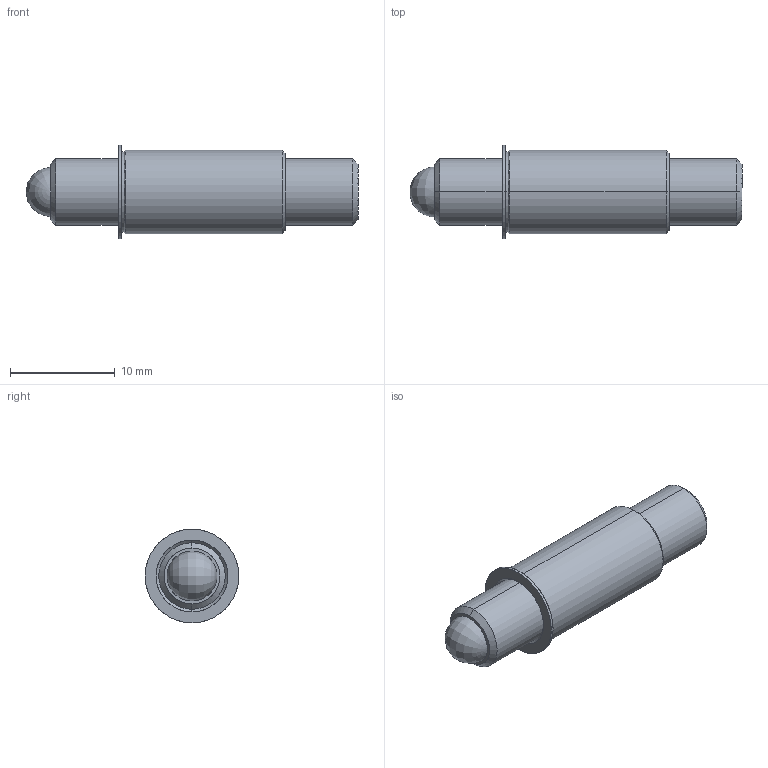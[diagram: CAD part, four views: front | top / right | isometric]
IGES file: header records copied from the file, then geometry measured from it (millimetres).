
Start section: SolidWorks IGES file using analytic representation for surfaces
Global section: file name: C:\Users\workpc\Desktop\KMA Solidworks\TSB250-80-1250_625-AA.IGS; native system: SolidWorks 2013; preprocessor: SolidWorks 2013; author: workpc; date: 130314.085046; units: inch
Bounding box: 31.71 x 8.94 x 8.94 mm (x, y, z)
Surface area: 1166 mm2 (no closed solid volume)
Topology: 0 solids, 0 shells, 33 faces, 406 edges, 402 vertices
Faces by surface type: revolution 22, bspline 11
